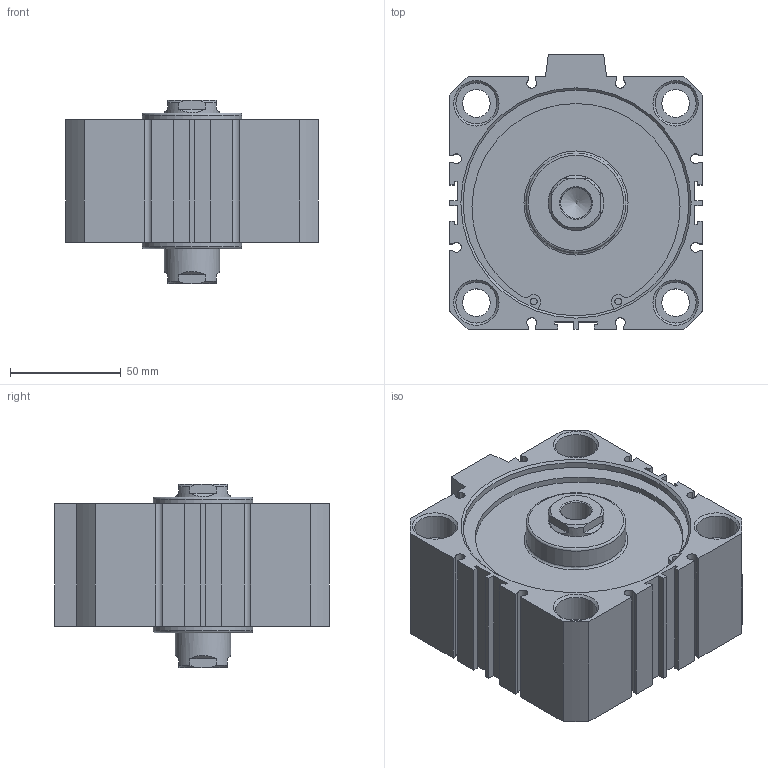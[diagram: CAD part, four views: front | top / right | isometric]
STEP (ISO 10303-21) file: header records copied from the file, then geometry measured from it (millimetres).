
FILE_DESCRIPTION((''),'2;1');
FILE_NAME('I:\3D電子目錄\氣缸\JDD\JDD\JDD100\JDD100x10.stp','2007-02-08T11:55:02',('662F206'),(''),'Autodesk Inventor 10','Autodesk Inventor 10','');
FILE_SCHEMA(('AUTOMOTIVE_DESIGN { 1 0 10303 214 1 1 1 1 }'));
Length unit declared in the file: millimetre
Products named in the file (3): JDD100; R 形環 100
Assembly tree (3 placements, depth 2):
  JDD100
    JDD100
    R 形環 100  x2
Bounding box: 114 x 124 x 82.7 mm (x, y, z)
Volume: 577794.5 mm3; surface area: 93276.4 mm2
Topology: 3 solids, 3 shells, 200 faces, 502 edges, 330 vertices
Faces by surface type: plane 116, cylinder 52, cone 24, bspline 6, torus 2
Full cylindrical faces by diameter (mm): 3.1 x4, 3.5 x2, 12.5 x4, 18.5 x8, 25 x2, 45 x2, 102 x4, 106 x2
Entity records: 5511 total; most frequent: CARTESIAN_POINT 1094, DIRECTION 908, ORIENTED_EDGE 824, EDGE_CURVE 412, AXIS2_PLACEMENT_3D 324, VERTEX_POINT 300, EDGE_LOOP 272, VECTOR 260
